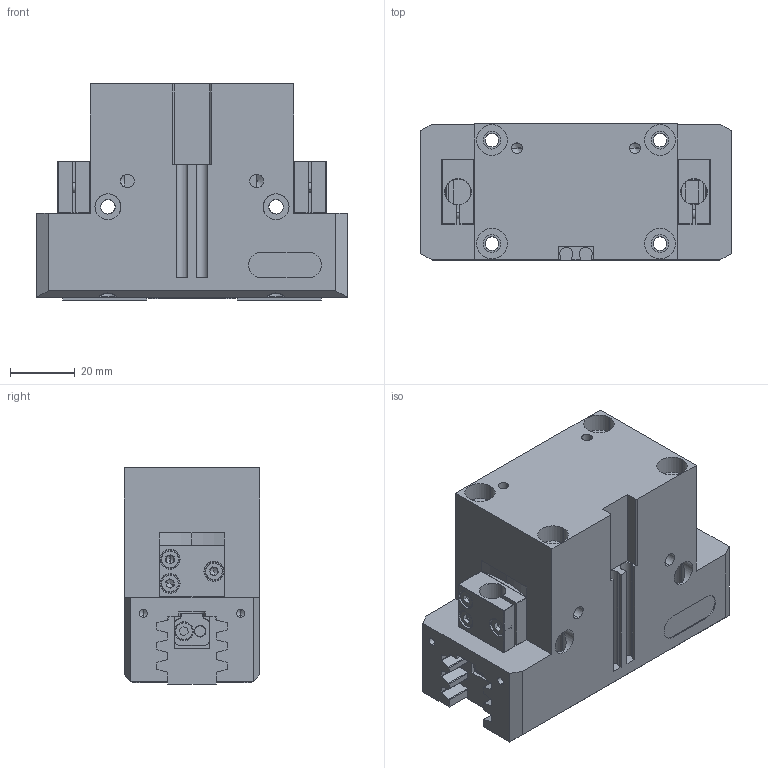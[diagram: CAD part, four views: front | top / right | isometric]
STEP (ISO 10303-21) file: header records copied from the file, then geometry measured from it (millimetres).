
FILE_DESCRIPTION (( 'STEP AP214' ), '1' );
FILE_NAME ('FPT-80B-1-S蚾饜极.STEP', '2024-11-12T08:49:38', ( '' ), ( '' ), 'SwSTEP 2.0', 'SolidWorks 2018', '' );
FILE_SCHEMA (( 'AUTOMOTIVE_DESIGN' ));
Length unit declared in the file: millimetre
Products named in the file (1): FPT-80B-1-S蚾饜极
Bounding box: 96 x 42 x 66.85 mm (x, y, z)
Volume: 185521.8 mm3; surface area: 44777 mm2
Topology: 1 solids, 24 shells, 1123 faces, 2765 edges, 1683 vertices
Faces by surface type: plane 554, cylinder 341, cone 184, torus 40, bspline 4
Entity records: 41200 total; most frequent: CARTESIAN_POINT 7162, DIRECTION 5852, ORIENTED_EDGE 5398, EDGE_CURVE 2699, AXIS2_PLACEMENT_3D 2125, VERTEX_POINT 1683, VECTOR 1602, LINE 1602
